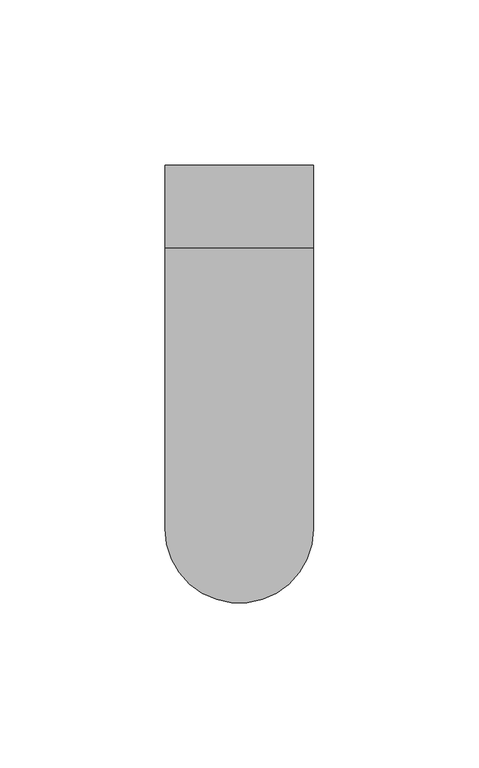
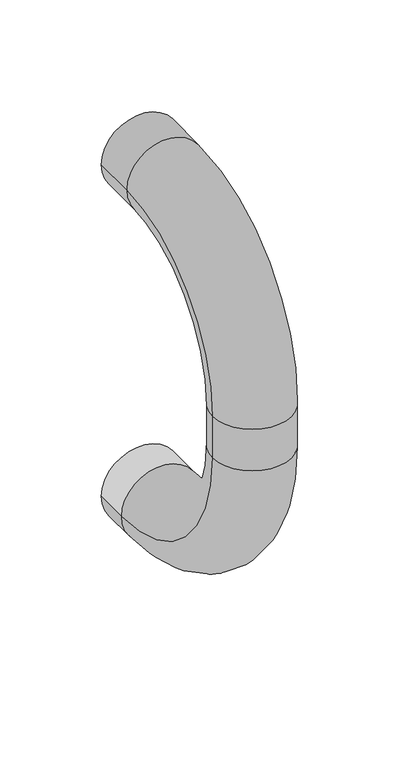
"""IFC4 building model written with IfcOpenShell, lengths in millimetres: proxy geometry, Terminaciones 3 : Terminaciones 1."""

from ifc_helpers import new_model, si_unit, point, frame, origin, place, context, project, spatial, circle_curve, ellipse_curve, trimmed, source, transform, mapped, element, save
from ifc_brep_helpers import plane_surface, cylinder_surface, revolved_surface, advanced_brep


def building_element_proxy_eb7c9d0a(model_context):
    return source(origin(), model_context, "Body", "AdvancedBrep", [
        advanced_brep(
        [(17136.794121, -744.3687272, 677.5), (17181.794121, -744.3687272, 677.5), (17136.794121, -769.3687272, 677.5), (17181.794121, -769.3687272, 677.5), (17181.794121, -854.3687272, 592.5), (17136.794121, -854.3687272, 592.5), (17136.794121, -854.3687272, 567.5), (17181.794121, -854.3687272, 567.5), (17181.794121, -764.3687272, 477.5), (17136.794121, -764.3687272, 477.5), (17136.794121, -744.3687272, 477.5), (17181.794121, -744.3687272, 477.5)],
        [
            (0, 1, circle_curve(frame((17159.294121, -744.3687272, 677.5), z_axis=(0.0, 1.0, 0.0), x_axis=(1.0, 0.0, 0.0)), 22.5)),
            (1, 0, circle_curve(frame((17159.294121, -744.3687272, 677.5), z_axis=(0.0, 1.0, 0.0), x_axis=(1.0, 0.0, 0.0)), 22.5)),
            (0, 2),
            (2, 3, circle_curve(frame((17159.294121, -769.3687272, 677.5), z_axis=(0.0, 1.0, 0.0), x_axis=(1.0, 0.0, 0.0)), 22.5)),
            (3, 1),
            (3, 2, circle_curve(frame((17159.294121, -769.3687272, 677.5), z_axis=(0.0, 1.0, 0.0), x_axis=(1.0, 0.0, 0.0)), 22.5)),
            (4, 3, circle_curve(frame((17181.794121, -769.3687272, 592.5), z_axis=(-1.0, 0.0, 0.0), x_axis=(0.0, 0.0, 1.0)), 85.0)),
            (2, 5, circle_curve(frame((17136.794121, -769.3687272, 592.5), z_axis=(1.0, 0.0, 0.0), x_axis=(0.0, 0.0, 1.0)), 85.0)),
            (5, 4, circle_curve(frame((17159.294121, -854.3687272, 592.5), z_axis=(0.0, 0.0, 1.0), x_axis=(1.0, 0.0, 0.0)), 22.5)),
            (4, 5, circle_curve(frame((17159.294121, -854.3687272, 592.5), z_axis=(0.0, 0.0, 1.0), x_axis=(1.0, 0.0, 0.0)), 22.5)),
            (5, 6),
            (6, 7, circle_curve(frame((17159.294121, -854.3687272, 567.5), z_axis=(0.0, 0.0, 1.0), x_axis=(1.0, 0.0, 0.0)), 22.5)),
            (7, 4),
            (7, 6, circle_curve(frame((17159.294121, -854.3687272, 567.5), z_axis=(0.0, 0.0, 1.0), x_axis=(1.0, 0.0, 0.0)), 22.5)),
            (8, 7, circle_curve(frame((17181.794121, -764.3687272, 567.5), z_axis=(-1.0, 0.0, 0.0), x_axis=(0.0, -1.0, 0.0)), 90.0)),
            (6, 9, circle_curve(frame((17136.794121, -764.3687272, 567.5), z_axis=(1.0, 0.0, 0.0), x_axis=(0.0, -1.0, 0.0)), 90.0)),
            (9, 8, circle_curve(frame((17159.294121, -764.3687272, 477.5), z_axis=(0.0, -1.0, 0.0), x_axis=(1.0, 0.0, 0.0)), 22.5)),
            (8, 9, circle_curve(frame((17159.294121, -764.3687272, 477.5), z_axis=(0.0, -1.0, 0.0), x_axis=(1.0, 0.0, 0.0)), 22.5)),
            (10, 11, circle_curve(frame((17159.294121, -744.3687272, 477.5), z_axis=(0.0, 1.0, 0.0), x_axis=(1.0, 0.0, 0.0)), 22.5)),
            (11, 10, circle_curve(frame((17159.294121, -744.3687272, 477.5), z_axis=(0.0, 1.0, 0.0), x_axis=(1.0, 0.0, 0.0)), 22.5)),
            (9, 10),
            (11, 8),
        ],
        [
            plane_surface(frame((17159.294121, -744.3687272, 677.5), z_axis=(0.0, 1.0, 0.0), x_axis=(1.0, 0.0, 0.0))),
            cylinder_surface(frame((17159.294121, -744.3687272, 677.5), z_axis=(0.0, 1.0, 0.0), x_axis=(1.0, 0.0, 0.0)), 22.5),
            revolved_surface(trimmed(ellipse_curve(frame((17159.294121, -769.3687272, 677.5), z_axis=(0.0, 1.0, 0.0), x_axis=(1.0, 0.0, 0.0)), 22.5, 22.5), [point((17136.794121, -769.3687272, 677.5))], [point((17181.794121, -769.3687272, 677.5))], True, "CARTESIAN"), (17159.294121, -769.3687272, 592.5), (1.0, 0.0, 0.0)),
            revolved_surface(trimmed(ellipse_curve(frame((17159.294121, -769.3687272, 677.5), z_axis=(0.0, 1.0, 0.0), x_axis=(1.0, 0.0, 0.0)), 22.5, 22.5), [point((17181.794121, -769.3687272, 677.5))], [point((17136.794121, -769.3687272, 677.5))], True, "CARTESIAN"), (17159.294121, -769.3687272, 592.5), (1.0, 0.0, 0.0)),
            cylinder_surface(frame((17159.294121, -854.3687272, 592.5), z_axis=(0.0, 0.0, 1.0), x_axis=(1.0, 0.0, 0.0)), 22.5),
            revolved_surface(trimmed(ellipse_curve(frame((17159.294121, -854.3687272, 567.5), z_axis=(0.0, 0.0, 1.0), x_axis=(1.0, 0.0, 0.0)), 22.5, 22.5), [point((17136.794121, -854.3687272, 567.5))], [point((17181.794121, -854.3687272, 567.5))], True, "CARTESIAN"), (17159.294121, -764.3687272, 567.5), (1.0, 0.0, 0.0)),
            revolved_surface(trimmed(ellipse_curve(frame((17159.294121, -854.3687272, 567.5), z_axis=(0.0, 0.0, 1.0), x_axis=(1.0, 0.0, 0.0)), 22.5, 22.5), [point((17181.794121, -854.3687272, 567.5))], [point((17136.794121, -854.3687272, 567.5))], True, "CARTESIAN"), (17159.294121, -764.3687272, 567.5), (1.0, 0.0, 0.0)),
            plane_surface(frame((17159.294121, -744.3687272, 477.5), z_axis=(0.0, 1.0, 0.0), x_axis=(1.0, 0.0, 0.0))),
            cylinder_surface(frame((17159.294121, -764.3687272, 477.5), z_axis=(0.0, -1.0, 0.0), x_axis=(1.0, 0.0, 0.0)), 22.5),
        ],
        [
            (0, [[1, 2]]),
            (1, [[-1, 3, 4, 5]]),
            (1, [[-2, -5, 6, -3]]),
            (2, [[7, -4, 8, 9]]),
            (3, [[-8, -6, -7, 10]]),
            (4, [[-9, 11, 12, 13]]),
            (4, [[-10, -13, 14, -11]]),
            (5, [[15, -12, 16, 17]]),
            (6, [[-16, -14, -15, 18]]),
            (7, [[19, 20]]),
            (8, [[-17, 21, -20, 22]]),
            (8, [[-18, -22, -19, -21]]),
        ],
    ),
    ])


if __name__ == "__main__":
    model = new_model("IFC4")
    model_context = context("Model", 3, world=origin())
    ifc_project = project(units=[si_unit("LENGTHUNIT", "METRE", prefix="MILLI")], contexts=[model_context])
    site = spatial("IfcSite", under=ifc_project)
    building = spatial("IfcBuilding", under=site)
    placement = place(None, origin())
    building_element_proxy_shape = building_element_proxy_eb7c9d0a(model_context)
    element("IfcBuildingElementProxy", 1, Name="Terminaciones 3 : Terminaciones 1", ObjectType="Terminaciones 3 : Terminaciones 1", at=placement, inside=building, context=model_context, shape_type="MappedRepresentation", body=[
        mapped(building_element_proxy_shape, transform((0.0, 0.0, 0.0), x_axis=(1.0, 0.0, 0.0), y_axis=(0.0, 1.0, 0.0), z_axis=(0.0, 0.0, 1.0))),
    ])
    save(model, "model.ifc")
